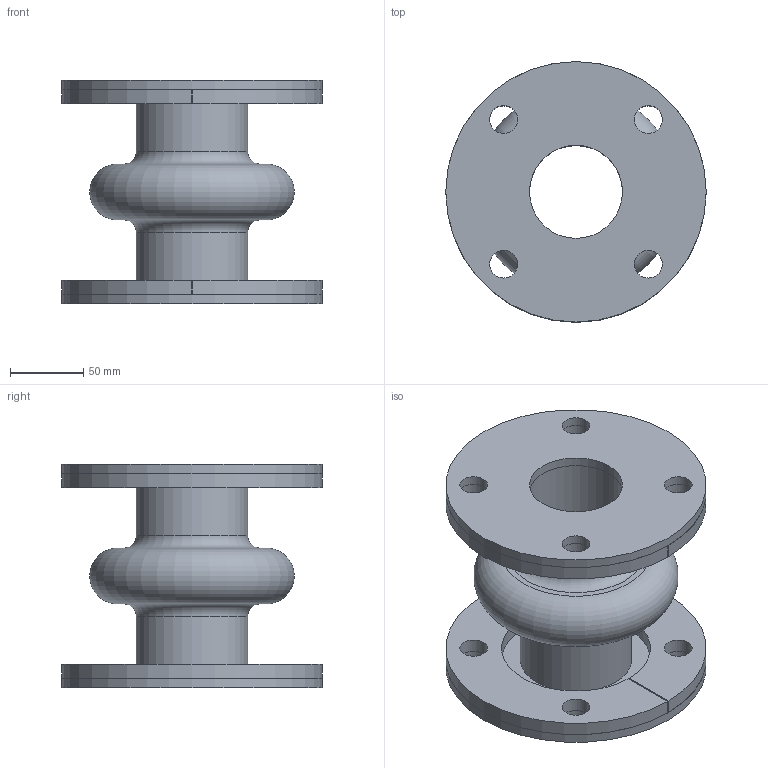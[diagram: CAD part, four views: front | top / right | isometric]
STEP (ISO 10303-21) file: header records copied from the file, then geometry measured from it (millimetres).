
FILE_DESCRIPTION(/* description */ (''),/* implementation_level */ '2;1');
FILE_NAME(/* name */ '2.5x6.stp',/* time_stamp */ '2026-07-21T15:52:16-05:00',/* author */ ('linda'),/* organization */ (''),/* preprocessor_version */ 'ST-DEVELOPER v20.1',/* originating_system */ 'Autodesk Inventor 2026',/* authorisation */ '');
FILE_SCHEMA (('AUTOMOTIVE_DESIGN { 1 0 10303 214 3 1 1 }'));
Length unit declared in the file: inch
Products named in the file (1): Part16
Bounding box: 177.8 x 177.8 x 152.4 mm (x, y, z)
Volume: 869049.1 mm3; surface area: 276680 mm2
Topology: 5 solids, 5 shells, 62 faces, 138 edges, 92 vertices
Faces by surface type: cylinder 32, plane 24, torus 6
Full cylindrical faces by diameter (mm): 19.05 x16, 63.5 x4, 76.2 x2, 177.8 x2
Entity records: 1953 total; most frequent: DIRECTION 346, CARTESIAN_POINT 293, ORIENTED_EDGE 276, AXIS2_PLACEMENT_3D 145, EDGE_CURVE 138, EDGE_LOOP 102, VERTEX_POINT 92, CIRCLE 82
